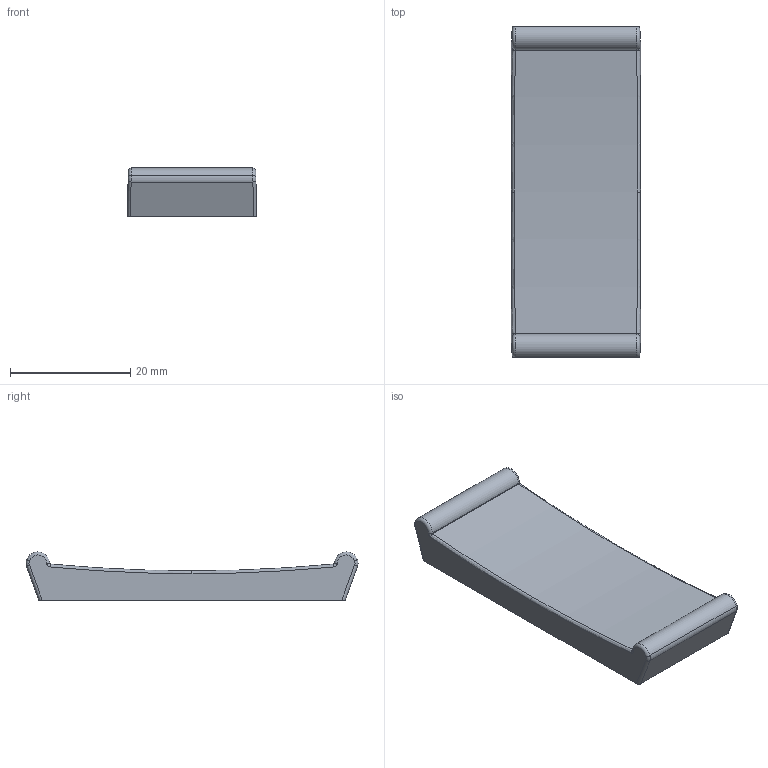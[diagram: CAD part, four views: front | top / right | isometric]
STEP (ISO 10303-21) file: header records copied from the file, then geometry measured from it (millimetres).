
FILE_DESCRIPTION(/* description */ (''),/* implementation_level */ '2;1');
FILE_NAME(/* name */ 'Z:\Tristan Inventor Projekte\Registerwippen Larenim\3374-101.stp',/* time_stamp */ '2022-09-05T15:01:54+02:00',/* author */ ('t.heuss'),/* organization */ ('ÐÅ¶ûÅµÉè¼Æ'),/* preprocessor_version */ 'ST-DEVELOPER v17',/* originating_system */ 'Autodesk Inventor 2018',/* authorisation */ '');
FILE_SCHEMA (('AUTOMOTIVE_DESIGN { 1 0 10303 214 3 1 1 }'));
Length unit declared in the file: millimetre
Products named in the file (1): 3374-101
Bounding box: 21.5 x 55.3 x 8 mm (x, y, z)
Volume: 3679.9 mm3; surface area: 4505.5 mm2
Topology: 1 solids, 1 shells, 243 faces, 623 edges, 412 vertices
Faces by surface type: plane 116, bspline 72, cylinder 43, torus 8, cone 4
Full cylindrical faces by diameter (mm): 5.1 x2
Entity records: 10960 total; most frequent: CARTESIAN_POINT 5119, ORIENTED_EDGE 1246, DIRECTION 963, EDGE_CURVE 623, VERTEX_POINT 412, LINE 339, VECTOR 339, AXIS2_PLACEMENT_3D 312
